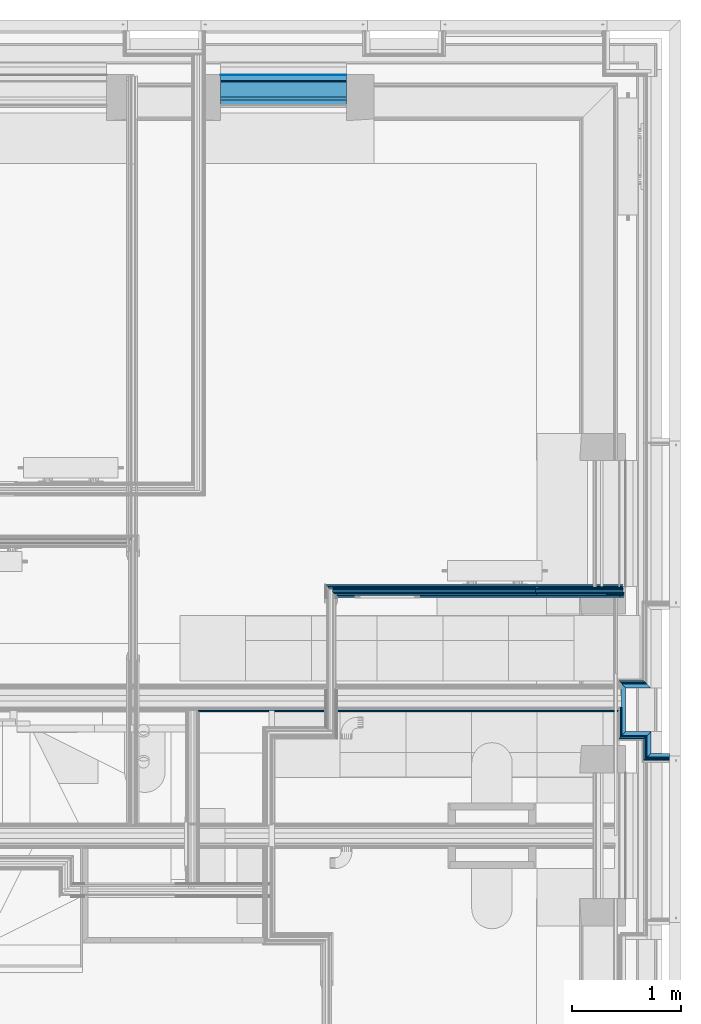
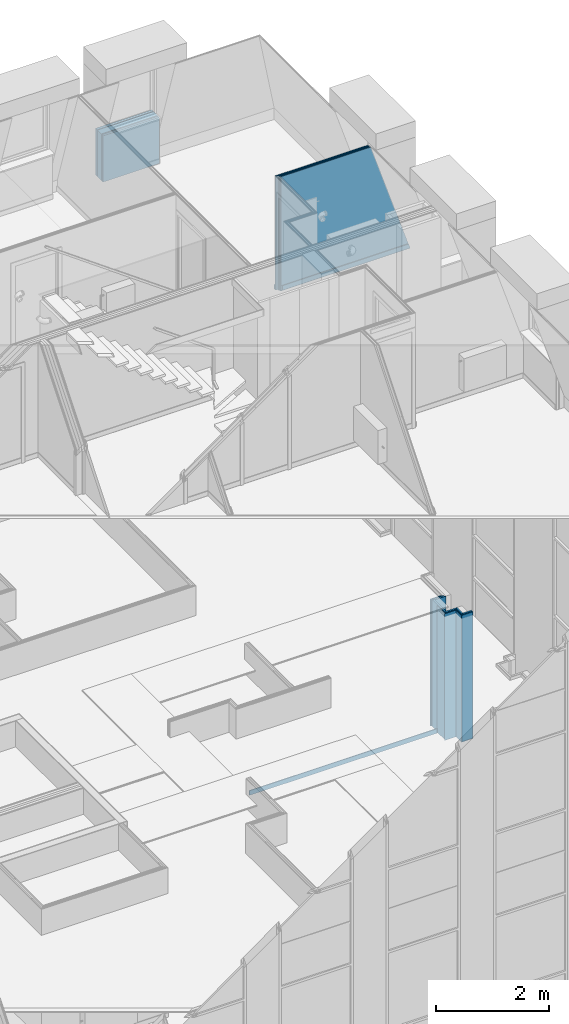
# One storey, part 46 of 169: 28 building element parts, 8 elements without a shape of their own.
"""IFC2X3 building model written with IfcOpenShell, lengths in metres."""

from ifc_helpers import new_model, entity, si_unit, converted_unit, derived_unit, money_unit, direction, frame, frame_2d, origin_with_axes, place, context, subcontext, project, spatial, polyline, rectangle, outline, extrude, clip, halfspace, material, type_object, element, aggregate, save


model = new_model("IFC2X3")

# Units and contexts
model_context = context("Model", 3, precision=1e-05, world=origin_with_axes(), true_north=direction((0.0, 1.0)))
body_context = subcontext(model_context, "Body", "Model", "MODEL_VIEW", scale=1.0)
ifc_project = project(units=[si_unit("LENGTHUNIT", "METRE"), si_unit("AREAUNIT", "SQUARE_METRE"), si_unit("VOLUMEUNIT", "CUBIC_METRE"), si_unit("ABSORBEDDOSEUNIT", "GRAY"), si_unit("AMOUNTOFSUBSTANCEUNIT", "MOLE"), si_unit("DOSEEQUIVALENTUNIT", "SIEVERT"), si_unit("ELECTRICCAPACITANCEUNIT", "FARAD"), si_unit("ELECTRICCHARGEUNIT", "COULOMB"), si_unit("ELECTRICCONDUCTANCEUNIT", "SIEMENS"), si_unit("ELECTRICCURRENTUNIT", "AMPERE"), si_unit("ELECTRICRESISTANCEUNIT", "OHM"), si_unit("ELECTRICVOLTAGEUNIT", "VOLT"), si_unit("ENERGYUNIT", "JOULE"), si_unit("FORCEUNIT", "NEWTON"), si_unit("FREQUENCYUNIT", "HERTZ"), si_unit("ILLUMINANCEUNIT", "LUX"), si_unit("INDUCTANCEUNIT", "HENRY"), si_unit("LUMINOUSFLUXUNIT", "LUMEN"), si_unit("LUMINOUSINTENSITYUNIT", "CANDELA"), si_unit("MAGNETICFLUXDENSITYUNIT", "TESLA"), si_unit("MAGNETICFLUXUNIT", "WEBER"), si_unit("MASSUNIT", "GRAM"), converted_unit("PLANEANGLEUNIT", "degree", entity("IfcReal", 0.0174532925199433), si_unit("PLANEANGLEUNIT", "RADIAN"), dimensions=[0, 0, 0, 0, 0, 0, 0]), si_unit("POWERUNIT", "WATT"), si_unit("PRESSUREUNIT", "PASCAL"), si_unit("RADIOACTIVITYUNIT", "BECQUEREL"), si_unit("SOLIDANGLEUNIT", "STERADIAN"), si_unit("THERMODYNAMICTEMPERATUREUNIT", "KELVIN"), si_unit("TIMEUNIT", "SECOND"), derived_unit("ACCELERATIONUNIT", [(si_unit("LENGTHUNIT", "METRE"), 1), (si_unit("TIMEUNIT", "SECOND"), -2)]), derived_unit("ANGULARVELOCITYUNIT", [(converted_unit("PLANEANGLEUNIT", "degree", entity("IfcReal", 0.0174532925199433), si_unit("PLANEANGLEUNIT", "RADIAN"), dimensions=[0, 0, 0, 0, 0, 0, 0]), 1), (si_unit("TIMEUNIT", "SECOND"), -1)]), derived_unit("CURVATUREUNIT", [(converted_unit("PLANEANGLEUNIT", "degree", entity("IfcReal", 0.0174532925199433), si_unit("PLANEANGLEUNIT", "RADIAN"), dimensions=[0, 0, 0, 0, 0, 0, 0]), 1), (si_unit("LENGTHUNIT", "METRE"), -1)]), derived_unit("DYNAMICVISCOSITYUNIT", [(si_unit("PRESSUREUNIT", "PASCAL"), 1), (si_unit("TIMEUNIT", "SECOND"), 1)]), derived_unit("HEATFLUXDENSITYUNIT", [(si_unit("POWERUNIT", "WATT"), 1), (si_unit("LENGTHUNIT", "METRE"), -2)]), derived_unit("HEATINGVALUEUNIT", [(si_unit("ENERGYUNIT", "JOULE"), 1), (si_unit("MASSUNIT", "GRAM"), -1)]), derived_unit("INTEGERCOUNTRATEUNIT", [(si_unit("TIMEUNIT", "SECOND"), -1)]), derived_unit("IONCONCENTRATIONUNIT", [(si_unit("MASSUNIT", "GRAM"), 1), (si_unit("VOLUMEUNIT", "CUBIC_METRE"), -1)]), derived_unit("ISOTHERMALMOISTURECAPACITYUNIT", [(si_unit("VOLUMEUNIT", "CUBIC_METRE"), 1), (si_unit("MASSUNIT", "GRAM"), -1)]), derived_unit("KINEMATICVISCOSITYUNIT", [(si_unit("AREAUNIT", "SQUARE_METRE"), 1), (si_unit("TIMEUNIT", "SECOND"), -1)]), derived_unit("LINEARFORCEUNIT", [(si_unit("FORCEUNIT", "NEWTON"), 1), (si_unit("LENGTHUNIT", "METRE"), -1)]), derived_unit("LINEARMOMENTUNIT", [(si_unit("FORCEUNIT", "NEWTON"), 1), (si_unit("LENGTHUNIT", "METRE"), -1)]), derived_unit("LINEARSTIFFNESSUNIT", [(si_unit("FORCEUNIT", "NEWTON"), 1), (si_unit("LENGTHUNIT", "METRE"), -1)]), derived_unit("LINEARVELOCITYUNIT", [(si_unit("LENGTHUNIT", "METRE"), 1), (si_unit("TIMEUNIT", "SECOND"), -1)]), derived_unit("LUMINOUSINTENSITYDISTRIBUTIONUNIT", [(si_unit("LUMINOUSINTENSITYUNIT", "CANDELA"), 1), (si_unit("LUMINOUSFLUXUNIT", "LUMEN"), -1)]), derived_unit("MASSDENSITYUNIT", [(si_unit("MASSUNIT", "GRAM"), 1), (si_unit("VOLUMEUNIT", "CUBIC_METRE"), -1)]), derived_unit("MASSFLOWRATEUNIT", [(si_unit("MASSUNIT", "GRAM"), 1), (si_unit("TIMEUNIT", "SECOND"), -1)]), derived_unit("MASSPERLENGTHUNIT", [(si_unit("MASSUNIT", "GRAM"), 1), (si_unit("LENGTHUNIT", "METRE"), -1)]), derived_unit("MODULUSOFELASTICITYUNIT", [(si_unit("FORCEUNIT", "NEWTON"), 1), (si_unit("AREAUNIT", "SQUARE_METRE"), -1)]), derived_unit("MODULUSOFLINEARSUBGRADEREACTIONUNIT", [(si_unit("FORCEUNIT", "NEWTON"), 1), (si_unit("LENGTHUNIT", "METRE"), -2)]), derived_unit("MODULUSOFROTATIONALSUBGRADEREACTIONUNIT", [(si_unit("FORCEUNIT", "NEWTON"), 1), (si_unit("LENGTHUNIT", "METRE"), 1)]), derived_unit("MODULUSOFSUBGRADEREACTIONUNIT", [(si_unit("FORCEUNIT", "NEWTON"), 1), (si_unit("VOLUMEUNIT", "CUBIC_METRE"), -1)]), derived_unit("MOISTUREDIFFUSIVITYUNIT", [(si_unit("VOLUMEUNIT", "CUBIC_METRE"), 1), (si_unit("TIMEUNIT", "SECOND"), -1)]), derived_unit("MOLECULARWEIGHTUNIT", [(si_unit("MASSUNIT", "GRAM"), 1), (si_unit("AMOUNTOFSUBSTANCEUNIT", "MOLE"), -1)]), derived_unit("PLANARFORCEUNIT", [(si_unit("FORCEUNIT", "NEWTON"), 1), (si_unit("LENGTHUNIT", "METRE"), -2)]), derived_unit("ROTATIONALFREQUENCYUNIT", [(si_unit("TIMEUNIT", "SECOND"), -1)]), derived_unit("ROTATIONALMASSUNIT", [(si_unit("MASSUNIT", "GRAM"), 1), (si_unit("LENGTHUNIT", "METRE"), 2)]), derived_unit("ROTATIONALSTIFFNESSUNIT", [(si_unit("FORCEUNIT", "NEWTON"), 1), (si_unit("LENGTHUNIT", "METRE"), 1), (converted_unit("PLANEANGLEUNIT", "degree", entity("IfcReal", 0.0174532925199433), si_unit("PLANEANGLEUNIT", "RADIAN"), dimensions=[0, 0, 0, 0, 0, 0, 0]), -1)]), derived_unit("SECTIONAREAINTEGRALUNIT", [(si_unit("LENGTHUNIT", "METRE"), 5)]), derived_unit("SECTIONMODULUSUNIT", [(si_unit("LENGTHUNIT", "METRE"), 3)]), derived_unit("SHEARMODULUSUNIT", [(si_unit("FORCEUNIT", "NEWTON"), 1), (si_unit("AREAUNIT", "SQUARE_METRE"), -1)]), derived_unit("SOUNDPOWERUNIT", [(si_unit("ENERGYUNIT", "JOULE"), 1), (si_unit("TIMEUNIT", "SECOND"), -1)]), derived_unit("SPECIFICHEATCAPACITYUNIT", [(si_unit("FORCEUNIT", "NEWTON"), 1), (si_unit("MASSUNIT", "GRAM"), -1), (si_unit("THERMODYNAMICTEMPERATUREUNIT", "KELVIN"), -1)]), derived_unit("TEMPERATUREGRADIENTUNIT", [(si_unit("THERMODYNAMICTEMPERATUREUNIT", "KELVIN"), 1), (si_unit("LENGTHUNIT", "METRE"), -1)]), derived_unit("THERMALADMITTANCEUNIT", [(si_unit("POWERUNIT", "WATT"), 1), (si_unit("AREAUNIT", "SQUARE_METRE"), -1), (si_unit("THERMODYNAMICTEMPERATUREUNIT", "KELVIN"), -1)]), derived_unit("THERMALCONDUCTANCEUNIT", [(si_unit("POWERUNIT", "WATT"), 1), (si_unit("LENGTHUNIT", "METRE"), -1), (si_unit("THERMODYNAMICTEMPERATUREUNIT", "KELVIN"), -1)]), derived_unit("THERMALEXPANSIONCOEFFICIENTUNIT", [(si_unit("THERMODYNAMICTEMPERATUREUNIT", "KELVIN"), -1)]), derived_unit("THERMALRESISTANCEUNIT", [(si_unit("AREAUNIT", "SQUARE_METRE"), 1), (si_unit("POWERUNIT", "WATT"), -1)]), derived_unit("THERMALTRANSMITTANCEUNIT", [(si_unit("POWERUNIT", "WATT"), 1), (si_unit("AREAUNIT", "SQUARE_METRE"), -1), (si_unit("THERMODYNAMICTEMPERATUREUNIT", "KELVIN"), -1)]), derived_unit("TORQUEUNIT", [(si_unit("FORCEUNIT", "NEWTON"), 1), (si_unit("LENGTHUNIT", "METRE"), 1)]), derived_unit("VAPORPERMEABILITYUNIT", [(si_unit("MASSUNIT", "GRAM"), 1), (si_unit("TIMEUNIT", "SECOND"), -1)]), derived_unit("VOLUMETRICFLOWRATEUNIT", [(si_unit("VOLUMEUNIT", "CUBIC_METRE"), 1), (si_unit("TIMEUNIT", "SECOND"), -1)]), derived_unit("WARPINGCONSTANTUNIT", [(si_unit("LENGTHUNIT", "METRE"), 6)]), derived_unit("WARPINGMOMENTUNIT", [(si_unit("FORCEUNIT", "NEWTON"), 1), (si_unit("LENGTHUNIT", "METRE"), 2)]), money_unit("GBP")], contexts=[model_context])

# Site, building, storey
site_placement = place(None, origin_with_axes())
site = spatial("IfcSite", under=ifc_project, at=site_placement, Name="Site", CompositionType="ELEMENT")
building_placement = place(site_placement, origin_with_axes())
building = spatial("IfcBuilding", under=site, at=building_placement, Name="Building01", CompositionType="ELEMENT")
storey_placement = place(building_placement, frame((0.0, 0.0, 5.15), z_axis=(0.0, 0.0, 1.0), x_axis=(1.0, 0.0, 0.0)))
storey = spatial("IfcBuildingStorey", under=building, at=storey_placement, Name="1F", CompositionType="ELEMENT", Elevation=5.15)

# Wall, building element part
wall_type_1 = type_object("IfcWallType", Name="SHE_A-Walls_Type01c_Partywall_225mm_twin_tall", PredefinedType="NOTDEFINED")
wall_1_placement = place(storey_placement, frame((26.444, 8.732, 0.0), z_axis=(0.0, 0.0, 1.0), x_axis=(-1.0, 0.0, 0.0)))
wall_1 = element("IfcWall", 1, at=wall_1_placement, inside=storey, type_object=wall_type_1, Name="1C", ObjectType="SHE_A-Walls_Type01c_Partywall_225mm_twin_tall")
ifc_material_1 = material(Name="A_BSUK_Walls_Timber")
building_element_part_1_placement = place(wall_1_placement, origin_with_axes())
building_element_part_1 = element("IfcBuildingElementPart", 2, at=building_element_part_1_placement, material=ifc_material_1, Name="11", context=body_context, shape_type="SweptSolid", body=[
    extrude(outline(polyline([(3.872339, 0.152), (0.042, 0.152), (0.027, 0.137), (3.872339, 0.137), (3.872339, 0.152)])), frame((0.0, 0.0, 0.015), z_axis=(0.0, 0.0, 1.0), x_axis=(1.0, 0.0, 0.0)), (0.0, 0.0, 1.0), 0.1),
])
aggregate(wall_1, [building_element_part_1])

# Wall, building element parts
wall_type_2 = type_object("IfcWallType", Name="SHE_A-Walls_Type06f_ExternalWallInsulation_48+15mm", PredefinedType="NOTDEFINED")
wall_2_placement = place(storey_placement, frame((26.88, 8.182326, 0.0), z_axis=(0.0, 0.0, 1.0), x_axis=(-1.0, 0.0, 0.0)))
wall_2 = element("IfcWall", 3, at=wall_2_placement, inside=storey, type_object=wall_type_2, Name="6F", ObjectType="SHE_A-Walls_Type06f_ExternalWallInsulation_48+15mm")
ifc_material_2 = material(Name="A_BSUK_Insulation")
placement_1 = place(wall_2_placement, origin_with_axes())
building_element_part_2 = element("IfcBuildingElementPart", 4, at=placement_1, material=ifc_material_2, Name="1", context=body_context, shape_type="SweptSolid", body=[
    extrude(outline(polyline([(0.206, 0.018), (0.0, 0.018), (0.0, -0.018), (0.17, -0.018), (0.206, 0.018)])), origin_with_axes(), (0.0, 0.0, 1.0), 2.74),
])
ifc_material_3 = material(Name="A_BSUK_WallInternal_Finishes_Plasterboard")
building_element_part_3 = element("IfcBuildingElementPart", 5, at=placement_1, material=ifc_material_3, Name="2", context=body_context, shape_type="SweptSolid", body=[
    extrude(outline(polyline([(0.218, 0.03), (0.0, 0.03), (0.0, 0.018), (0.206, 0.018), (0.218, 0.03)])), origin_with_axes(), (0.0, 0.0, 1.0), 2.74),
])
building_element_part_4 = element("IfcBuildingElementPart", 6, at=placement_1, material=ifc_material_3, Name="3", context=body_context, shape_type="SweptSolid", body=[
    extrude(outline(polyline([(0.233, 0.045), (0.0, 0.045), (0.0, 0.03), (0.218, 0.03), (0.233, 0.045)])), origin_with_axes(), (0.0, 0.0, 1.0), 2.74),
])
aggregate(wall_2, [building_element_part_2, building_element_part_3, building_element_part_4])

wall_3_placement = place(storey_placement, frame((26.692, 8.182326, 0.0), z_axis=(0.0, 0.0, 1.0), x_axis=(0.0, 1.0, 0.0)))
wall_3 = element("IfcWall", 7, at=wall_3_placement, inside=storey, type_object=wall_type_2, Name="6F", ObjectType="SHE_A-Walls_Type06f_ExternalWallInsulation_48+15mm")
placement_2 = place(wall_3_placement, origin_with_axes())
building_element_part_5 = element("IfcBuildingElementPart", 8, at=placement_2, material=ifc_material_2, Name="1", context=body_context, shape_type="SweptSolid", body=[
    extrude(outline(polyline([(0.181674, 0.018), (-0.018, 0.018), (0.018, -0.018), (0.217674, -0.018), (0.181674, 0.018)])), origin_with_axes(), (0.0, 0.0, 1.0), 2.74),
])
building_element_part_6 = element("IfcBuildingElementPart", 9, at=placement_2, material=ifc_material_3, Name="2", context=body_context, shape_type="SweptSolid", body=[
    extrude(outline(polyline([(0.169674, 0.03), (-0.03, 0.03), (-0.018, 0.018), (0.181674, 0.018), (0.169674, 0.03)])), origin_with_axes(), (0.0, 0.0, 1.0), 2.74),
])
building_element_part_7 = element("IfcBuildingElementPart", 10, at=placement_2, material=ifc_material_3, Name="3", context=body_context, shape_type="SweptSolid", body=[
    extrude(outline(polyline([(0.154674, 0.045), (-0.045, 0.045), (-0.03, 0.03), (0.169674, 0.03), (0.154674, 0.045)])), origin_with_axes(), (0.0, 0.0, 1.0), 2.74),
])
aggregate(wall_3, [building_element_part_5, building_element_part_6, building_element_part_7])

wall_4_placement = place(storey_placement, frame((26.692, 8.382, 0.0), z_axis=(0.0, 0.0, 1.0), x_axis=(-1.0, 0.0, 0.0)))
wall_4 = element("IfcWall", 11, at=wall_4_placement, inside=storey, type_object=wall_type_2, Name="6F", ObjectType="SHE_A-Walls_Type06f_ExternalWallInsulation_48+15mm")
placement_3 = place(wall_4_placement, origin_with_axes())
building_element_part_8 = element("IfcBuildingElementPart", 12, at=placement_3, material=ifc_material_2, Name="1", context=body_context, shape_type="SweptSolid", body=[
    extrude(outline(polyline([(0.248, 0.018), (0.018, 0.018), (-0.018, -0.018), (0.212, -0.018), (0.248, 0.018)])), origin_with_axes(), (0.0, 0.0, 1.0), 2.74),
])
building_element_part_9 = element("IfcBuildingElementPart", 13, at=placement_3, material=ifc_material_3, Name="2", context=body_context, shape_type="SweptSolid", body=[
    extrude(outline(polyline([(0.26, 0.03), (0.03, 0.03), (0.018, 0.018), (0.248, 0.018), (0.26, 0.03)])), origin_with_axes(), (0.0, 0.0, 1.0), 2.74),
])
building_element_part_10 = element("IfcBuildingElementPart", 14, at=placement_3, material=ifc_material_3, Name="3", context=body_context, shape_type="SweptSolid", body=[
    extrude(outline(polyline([(0.275, 0.045), (0.045, 0.045), (0.03, 0.03), (0.26, 0.03), (0.275, 0.045)])), origin_with_axes(), (0.0, 0.0, 1.0), 2.74),
])
aggregate(wall_4, [building_element_part_8, building_element_part_9, building_element_part_10])

wall_5_placement = place(storey_placement, frame((26.462, 8.818, 0.0), z_axis=(0.0, 0.0, 1.0), x_axis=(1.0, 0.0, 0.0)))
wall_5 = element("IfcWall", 15, at=wall_5_placement, inside=storey, type_object=wall_type_2, Name="6F", ObjectType="SHE_A-Walls_Type06f_ExternalWallInsulation_48+15mm")
placement_4 = place(wall_5_placement, origin_with_axes())
building_element_part_11 = element("IfcBuildingElementPart", 16, at=placement_4, material=ifc_material_2, Name="1", context=body_context, shape_type="SweptSolid", body=[
    extrude(outline(polyline([(0.212, 0.018), (-0.018, 0.018), (0.018, -0.018), (0.248, -0.018), (0.212, 0.018)])), origin_with_axes(), (0.0, 0.0, 1.0), 2.74),
])
building_element_part_12 = element("IfcBuildingElementPart", 17, at=placement_4, material=ifc_material_3, Name="2", context=body_context, shape_type="SweptSolid", body=[
    extrude(outline(polyline([(0.2, 0.03), (-0.03, 0.03), (-0.018, 0.018), (0.212, 0.018), (0.2, 0.03)])), origin_with_axes(), (0.0, 0.0, 1.0), 2.74),
])
building_element_part_13 = element("IfcBuildingElementPart", 18, at=placement_4, material=ifc_material_3, Name="3", context=body_context, shape_type="SweptSolid", body=[
    extrude(outline(polyline([(0.185, 0.045), (-0.045, 0.045), (-0.03, 0.03), (0.2, 0.03), (0.185, 0.045)])), origin_with_axes(), (0.0, 0.0, 1.0), 2.74),
])
aggregate(wall_5, [building_element_part_11, building_element_part_12, building_element_part_13])

wall_6_placement = place(storey_placement, frame((26.462, 8.382, 0.0), z_axis=(0.0, 0.0, 1.0), x_axis=(0.0, 1.0, 0.0)))
wall_6 = element("IfcWall", 19, at=wall_6_placement, inside=storey, type_object=wall_type_2, Name="6F", ObjectType="SHE_A-Walls_Type06f_ExternalWallInsulation_48+15mm")
placement_5 = place(wall_6_placement, origin_with_axes())
building_element_part_14 = element("IfcBuildingElementPart", 20, at=placement_5, material=ifc_material_2, Name="1", context=body_context, shape_type="SweptSolid", body=[
    extrude(outline(polyline([(0.454, 0.018), (-0.018, 0.018), (0.018, -0.018), (0.418, -0.018), (0.454, 0.018)])), origin_with_axes(), (0.0, 0.0, 1.0), 2.74),
])
building_element_part_15 = element("IfcBuildingElementPart", 21, at=placement_5, material=ifc_material_3, Name="2", context=body_context, shape_type="SweptSolid", body=[
    extrude(outline(polyline([(0.243, 0.03), (-0.03, 0.03), (-0.018, 0.018), (0.243, 0.018), (0.243, 0.03)])), origin_with_axes(), (0.0, 0.0, 1.0), 2.74),
])
aggregate(wall_6, [building_element_part_14, building_element_part_15])

wall_type_3 = type_object("IfcWallType", Name="SHE_A-Walls_Type05b_Partition_80mm", PredefinedType="NOTDEFINED")
wall_7_placement = place(storey_placement, frame((23.803, 9.672024, 9.83), z_axis=(0.0, 0.0, 1.0), x_axis=(1.0, 0.0, 0.0)))
wall_7 = element("IfcWall", 22, at=wall_7_placement, inside=storey, type_object=wall_type_3, Name="5B", ObjectType="SHE_A-Walls_Type05b_Partition_80mm")
placement_6 = place(wall_7_placement, origin_with_axes())
building_element_part_16 = element("IfcBuildingElementPart", 23, at=placement_6, material=ifc_material_1, Name="1", context=body_context, shape_type="Clipping", body=[
    clip(extrude(outline(polyline([(2.658784, -0.027), (0.027, -0.027), (0.042, -0.042), (2.658784, -0.042), (2.658784, -0.027)])), frame((0.0, 0.0, 0.015), z_axis=(0.0, 0.0, 1.0), x_axis=(1.0, 0.0, 0.0)), (0.0, 0.0, 1.0), 0.1), halfspace(frame((2.409301, 0.0, 0.782829), z_axis=(-0.95105652, 0.0, -0.30901699), x_axis=(0.0, -1.0, 0.0)), True)),
])
building_element_part_17 = element("IfcBuildingElementPart", 24, at=placement_6, material=ifc_material_3, Name="2", context=body_context, shape_type="Clipping", body=[
    clip(extrude(outline(polyline([(2.663658, -0.012), (0.012, -0.012), (0.027, -0.027), (2.663658, -0.027), (2.663658, -0.012)])), origin_with_axes(), (0.0, 0.0, 1.0), 2.468), halfspace(frame((2.409301, 0.0, 0.782829), z_axis=(-0.95105652, 0.0, -0.30901699), x_axis=(0.0, -1.0, 0.0)), True)),
])
ifc_material_4 = material(Name="Air Cavity")
building_element_part_18 = element("IfcBuildingElementPart", 25, at=placement_6, material=ifc_material_4, Name="3", context=body_context, shape_type="Clipping", body=[
    clip(extrude(outline(polyline([(2.663658, 0.0), (0.0, 0.0), (0.012, -0.012), (2.663658, -0.012), (2.663658, 0.0)])), origin_with_axes(), (0.0, 0.0, 1.0), 2.468), halfspace(frame((2.409301, 0.0, 0.782829), z_axis=(-0.95105652, 0.0, -0.30901699), x_axis=(0.0, -1.0, 0.0)), True)),
])
building_element_part_19 = element("IfcBuildingElementPart", 26, at=placement_6, material=ifc_material_2, Name="4", context=body_context, shape_type="Clipping", body=[
    clip(extrude(rectangle(XDim=2.653143, YDim=0.025, at=frame_2d((1.326572, 0.0125), x_axis=(-1.0, 0.0))), origin_with_axes(), (0.0, 0.0, 1.0), 2.468), halfspace(frame((2.399791, 0.0, 0.779739), z_axis=(-0.95105652, 0.0, -0.30901699), x_axis=(0.0, -1.0, 0.0)), True)),
])
building_element_part_20 = element("IfcBuildingElementPart", 27, at=placement_6, material=ifc_material_4, Name="5", context=body_context, shape_type="Clipping", body=[
    clip(extrude(rectangle(XDim=2.653143, YDim=0.013, at=frame_2d((1.326572, 0.0315), x_axis=(-1.0, 0.0))), origin_with_axes(), (0.0, 0.0, 1.0), 2.468), halfspace(frame((2.399791, 0.0, 0.779739), z_axis=(-0.95105652, 0.0, -0.30901699), x_axis=(0.0, -1.0, 0.0)), True)),
])
building_element_part_21 = element("IfcBuildingElementPart", 28, at=placement_6, material=ifc_material_3, Name="6", context=body_context, shape_type="Clipping", body=[
    clip(extrude(outline(polyline([(2.653143, 0.053), (-0.053, 0.053), (-0.038, 0.038), (2.653143, 0.038), (2.653143, 0.053)])), origin_with_axes(), (0.0, 0.0, 1.0), 2.468), halfspace(frame((2.399791, 0.0, 0.779739), z_axis=(-0.95105652, 0.0, -0.30901699), x_axis=(0.0, -1.0, 0.0)), True)),
])
building_element_part_22 = element("IfcBuildingElementPart", 29, at=placement_6, material=ifc_material_1, Name="7", context=body_context, shape_type="Clipping", body=[
    clip(extrude(outline(polyline([(2.64827, 0.068), (-0.068, 0.068), (-0.053, 0.053), (2.64827, 0.053), (2.64827, 0.068)])), frame((0.0, 0.0, 0.015), z_axis=(0.0, 0.0, 1.0), x_axis=(1.0, 0.0, 0.0)), (0.0, 0.0, 1.0), 0.1), halfspace(frame((2.399791, 0.0, 0.779739), z_axis=(-0.95105652, 0.0, -0.30901699), x_axis=(0.0, -1.0, 0.0)), True)),
])
aggregate(wall_7, [building_element_part_16, building_element_part_17, building_element_part_18, building_element_part_19, building_element_part_20, building_element_part_21, building_element_part_22])

wall_type_4 = type_object("IfcWallType", Name="SHE_A-Walls_Type06e_ExternalWallPenthouse_280mm", PredefinedType="NOTDEFINED")
wall_8_placement = place(storey_placement, frame((22.780024, 14.335061, 9.83), z_axis=(0.0, 0.0, 1.0), x_axis=(1.0, 0.0, 0.0)))
wall_8 = element("IfcWall", 30, at=wall_8_placement, inside=storey, type_object=wall_type_4, Name="6E", ObjectType="SHE_A-Walls_Type06e_ExternalWallPenthouse_280mm")
placement_7 = place(wall_8_placement, origin_with_axes())
building_element_part_23 = element("IfcBuildingElementPart", 31, at=placement_7, material=ifc_material_2, Name="3", context=body_context, shape_type="SweptSolid", body=[
    extrude(rectangle(XDim=1.149951, YDim=0.04, at=frame_2d((0.574976, -0.185), x_axis=(-1.0, 0.0))), origin_with_axes(), (0.0, 0.0, 1.0), 1.0),
])
building_element_part_24 = element("IfcBuildingElementPart", 32, at=placement_7, material=ifc_material_4, Name="4", context=body_context, shape_type="SweptSolid", body=[
    extrude(rectangle(XDim=1.149951, YDim=0.025, at=frame_2d((0.574976, -0.1525), x_axis=(-1.0, 0.0))), origin_with_axes(), (0.0, 0.0, 1.0), 1.0),
])
building_element_part_25 = element("IfcBuildingElementPart", 33, at=placement_7, material=ifc_material_2, Name="5", context=body_context, shape_type="SweptSolid", body=[
    extrude(rectangle(XDim=1.149951, YDim=0.14, at=frame_2d((0.574976, -0.07), x_axis=(-1.0, 0.0))), origin_with_axes(), (0.0, 0.0, 1.0), 1.0),
])
building_element_part_26 = element("IfcBuildingElementPart", 34, at=placement_7, material=ifc_material_1, Name="6", context=body_context, shape_type="SweptSolid", body=[
    extrude(rectangle(XDim=1.149951, YDim=0.01, at=frame_2d((0.574976, 0.005), x_axis=(-1.0, 0.0))), origin_with_axes(), (0.0, 0.0, 1.0), 1.0),
])
building_element_part_27 = element("IfcBuildingElementPart", 35, at=placement_7, material=ifc_material_4, Name="7", context=body_context, shape_type="SweptSolid", body=[
    extrude(rectangle(XDim=1.149951, YDim=0.05, at=frame_2d((0.574976, 0.035), x_axis=(-1.0, 0.0))), origin_with_axes(), (0.0, 0.0, 1.0), 1.0),
])
ifc_material_5 = material(Name="A_BSUK_WallInternal_Finishes_Metal")
building_element_part_28 = element("IfcBuildingElementPart", 36, at=placement_7, material=ifc_material_5, Name="8", context=body_context, shape_type="SweptSolid", body=[
    extrude(rectangle(XDim=1.149951, YDim=0.005, at=frame_2d((0.574976, 0.0625), x_axis=(-1.0, 0.0))), origin_with_axes(), (0.0, 0.0, 1.0), 1.0),
])
aggregate(wall_8, [building_element_part_23, building_element_part_24, building_element_part_25, building_element_part_26, building_element_part_27, building_element_part_28])

save(model, "model.ifc")
